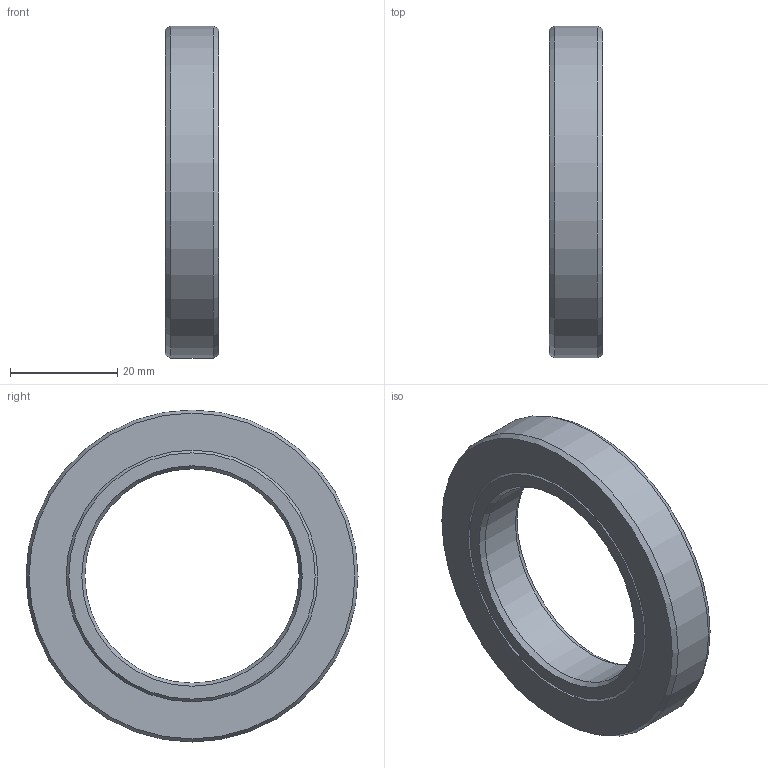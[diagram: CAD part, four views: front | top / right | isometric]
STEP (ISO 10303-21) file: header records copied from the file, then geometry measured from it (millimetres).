
FILE_DESCRIPTION(/* description */ (''),/* implementation_level */ '2;1');
FILE_NAME(/* name */ '301842 SA 40x62x10.stp',/* time_stamp */ '2016-12-16T15:22:54+01:00',/* author */ (''),/* organization */ (''),/* preprocessor_version */ 'ST-DEVELOPER v15',/* originating_system */ 'SIEMENS PLM Software NX 8.5',/* authorisation */ '');
FILE_SCHEMA (('CONFIG_CONTROL_DESIGN'));
Length unit declared in the file: millimetre
Products named in the file (1): ATE0000144_01
Bounding box: 10 x 62 x 62 mm (x, y, z)
Volume: 16544.7 mm3; surface area: 10259.7 mm2
Topology: 2 solids, 2 shells, 18 faces, 37 edges, 23 vertices
Faces by surface type: cone 10, plane 5, cylinder 3
Full cylindrical faces by diameter (mm): 40 x1, 62 x1
Entity records: 492 total; most frequent: DIRECTION 76, CARTESIAN_POINT 74, ORIENTED_EDGE 46, AXIS2_PLACEMENT_3D 38, EDGE_LOOP 33, FACE_BOUND 30, EDGE_CURVE 23, VERTEX_POINT 20
